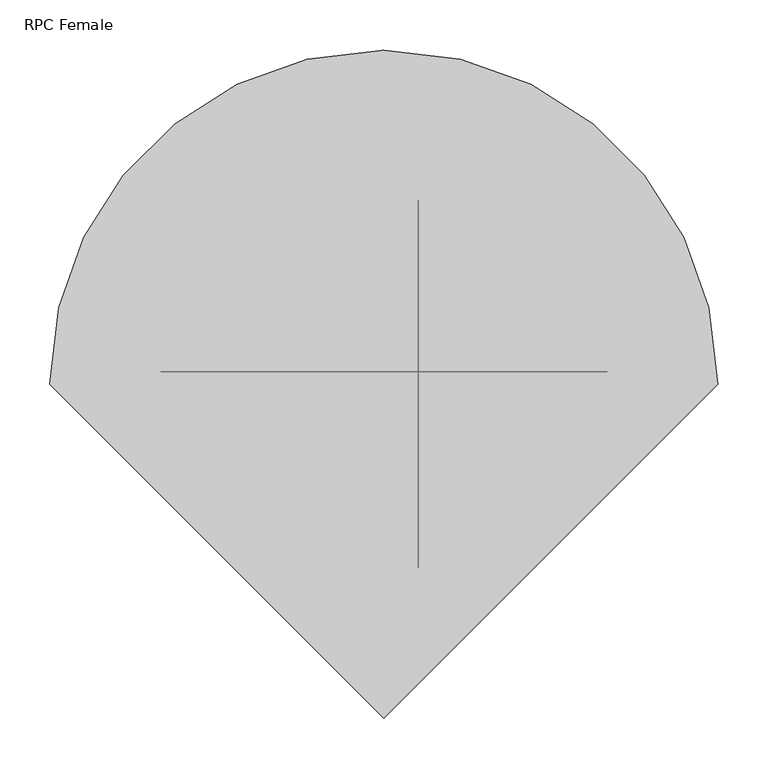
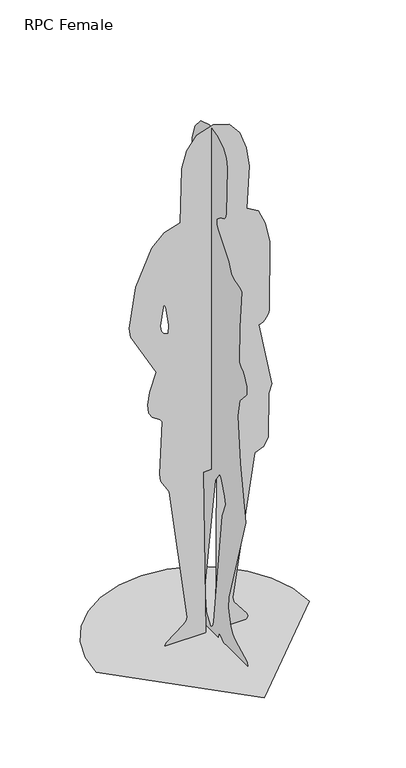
"""IFC4 building model written with IfcOpenShell, lengths in millimetres: proxy geometry, RPC Female : Florence."""

from ifc_helpers import new_model, si_unit, origin, place, context, project, spatial, triangles, source, transform, mapped, element, save


def rpc_female_692637f3(model_context):
    return source(origin(), model_context, "Body", "Tessellation", [
        triangles([(334.1038436, 0.0002006, 4.67e-05), (325.2712069, 76.554684, 4.67e-05), (300.1160563, 146.8577329, 4.67e-05), (260.6525312, 208.8950799, 4.67e-05), (208.8950436, 260.6526402, 4.67e-05), (146.8576239, 300.1161108, 4.67e-05), (76.5545841, 325.2713159, 4.67e-05), (0.0001119, 334.1039526, 4.67e-05), (-76.5543661, 325.2713159, 4.67e-05), (-146.8574241, 300.1161471, 4.67e-05), (-208.8947893, 260.6526402, 4.67e-05), (-260.6523677, 208.8951526, 4.67e-05), (-300.1157837, 146.8577238, 4.67e-05), (-325.2709888, 76.5546749, 4.67e-05), (-334.1036256, 0.0002063, 4.67e-05), (0.0001354, -334.1035166, 4.67e-05), (34.5735982, -6.9369908, 510.5862036), (34.5736005, 50.0894208, 122.5869578), (34.5736005, 40.8608144, 46.3929486), (34.5735982, 17.1569787, 11.3406073), (34.5735982, 7.4077424, 20.0668393), (34.5735982, 1.2816647, 37.4286861), (34.5735982, -2.1837537, 60.406083), (34.573596, -46.4921976, 417.5145226), (34.573596, -63.110333, 464.5403223), (34.573596, -60.1161389, 490.2851171), (34.573596, -39.0453865, 536.4626401), (34.573596, -31.9759211, 546.3433597), (34.5736051, 133.6635619, 4.67e-05), (34.5736051, 131.2497012, 427.6552917), (34.5736028, 105.4428553, 516.402818), (34.5736051, 133.6330768, 904.8776161), (34.5736051, 118.5363239, 971.9484495), (34.5736051, 119.0610557, 980.9675211), (34.5736051, 126.7253499, 988.4865389), (34.5736073, 167.3251791, 1010.3459604), (34.5736073, 178.3172225, 1020.1671633), (34.5736073, 183.8335464, 1032.6394398), (34.5736073, 170.1064229, 1269.4988194), (34.5736073, 153.1875791, 1316.4971134), (34.5736051, 126.3412163, 1357.63312), (34.5736051, 116.7179574, 1573.3395756), (34.5736028, 100.9948892, 1620.5182365), (34.5736028, 71.8814228, 1654.7582977), (34.5736005, 25.3458139, 1670.9407402), (34.573596, -21.8028775, 1659.2649994), (34.573596, -51.3715418, 1640.0022217), (34.5735937, -67.2787558, 1615.437006), (34.5735937, -73.4430507, 1587.8543873), (34.5735937, -67.1164838, 1429.4550442), (34.573596, -62.6125163, 1414.6470818), (34.573596, -56.0058929, 1408.6359661), (34.573596, -33.6371819, 1398.6160835), (34.5735982, -16.4512737, 1382.4130028), (34.5735982, -16.5742143, 1366.5170254), (34.573596, -23.8041702, 1350.9894848), (34.5735937, -80.3271009, 1279.6723263), (34.5735937, -93.6682833, 1248.0555061), (34.5735937, -101.8993307, 1241.9481754), (34.5735914, -113.2375739, 1237.3922035), (34.5735914, -125.7355211, 1233.7834122), (34.5735914, -137.445871, 1230.5184952), (34.5735914, -146.4210681, 1226.9929836), (34.5735914, -150.7137475, 1222.6031353), (34.5735914, -148.5625071, 1190.0747429), (34.5735914, -140.3131288, 1099.0845119), (34.5735914, -138.7464003, 982.8324509), (34.5735914, -146.619339, 972.1617359), (34.5735892, -156.6982296, 965.1524254), (34.5735892, -165.5360078, 953.6295095), (34.5735892, -177.5233393, 924.4368147), (34.5735892, -179.6904672, 910.463249), (34.5735892, -178.6515408, 899.3693041), (34.5735892, -173.9153837, 893.0032682), (34.5735914, -141.1932077, 856.8173229), (34.5735914, -128.9730324, 798.8474602), (34.5735914, -142.8069082, 650.4621861), (34.5735892, -172.1239596, 470.1701385), (34.5735937, -80.165383, 167.8524907), (34.5735937, -77.6113328, 131.7844796), (34.5735937, -91.6647991, 75.8743931), (34.5735937, -102.4531668, 58.8461219), (34.5735914, -116.401843, 46.2735109), (34.5735892, -182.1041825, 14.070202), (34.5735892, -183.8332739, 4.67e-05), (34.573596, -53.8341595, 4.67e-05), (34.573596, -35.7947333, 12.7326758), (34.573596, -29.2463276, 15.4350465), (34.573596, -27.5084158, 14.8404334), (34.573596, -26.3930815, 13.6010264), (34.573596, -23.0174154, 4.67e-05), (-109.094313, 12.6252593, 1123.2807821), (-99.0692164, 12.6252548, 1062.4456146), (-101.4218071, 12.6252536, 1032.213085), (-115.6875607, 12.6252536, 1036.9381599), (-123.3610839, 12.6252559, 1049.3745375), (-125.9345188, 12.6252559, 1066.9140919), (-115.0698113, 12.6252593, 1135.9380037), (142.5673516, 12.6251787, 0.0), (147.4016405, 12.6251787, 9.7557227), (144.3531438, 12.6251798, 20.3925416), (104.8323548, 12.6251855, 72.3575519), (100.9956885, 12.6251855, 87.8546938), (169.3636811, 12.6252093, 543.0591125), (197.666532, 12.6252093, 555.605367), (211.7994085, 12.6252093, 579.9655443), (214.3379708, 12.6252173, 724.0128565), (223.4012803, 12.6252196, 753.7932335), (181.7748058, 12.6252343, 962.6080313), (189.3709628, 12.6252332, 963.9546787), (195.9600047, 12.6252332, 967.6156471), (201.5896029, 12.6252343, 973.0224392), (206.3074654, 12.6252343, 979.6063396), (210.1614997, 12.6252332, 986.7992872), (213.1992504, 12.6252332, 994.0323486), (215.4685159, 12.6252343, 1000.7370993), (216.7847147, 12.6252479, 1226.3016014), (203.5876096, 12.6252536, 1292.6408661), (180.5930284, 12.625257, 1341.5987789), (145.6075276, 12.6252582, 1362.4953232), (152.3856295, 12.6252672, 1500.6374725), (142.6607235, 12.6252718, 1563.7968441), (122.5370971, 12.6252763, 1620.2490669), (89.370735, 12.625282, 1660.8358337), (40.5176895, 12.6252843, 1676.4), (-11.7228571, 12.6252854, 1659.2202347), (-43.4643846, 12.6252854, 1619.483416), (-59.5217757, 12.6252831, 1565.8930824), (-63.2073292, 12.6252718, 1387.0617016), (-114.1079968, 12.6252741, 1371.9761398), (-153.4323498, 12.6252729, 1333.9056438), (-202.7226188, 12.6252695, 1222.3996593), (-223.4010259, 12.6252627, 1092.6907888), (-219.1643114, 12.6252604, 1062.1448336), (-139.8068642, 12.6252468, 917.9959288), (-160.1374456, 12.6252457, 858.7674219), (-166.230642, 12.6252434, 817.4798985), (-162.0168367, 12.6252411, 790.3472523), (-151.4263857, 12.6252389, 773.5839586), (-126.837407, 12.6252377, 756.0219492), (-120.6996275, 12.6252366, 747.6516026), (-128.6616143, 12.6252264, 575.4503403), (-125.4420706, 12.6252252, 551.8412436), (-98.6846832, 12.6252218, 508.0167383), (-41.8822682, 12.6251934, 71.4770234), (-45.3585504, 12.6251912, 61.0228059), (-53.9451629, 12.6251912, 51.2209333), (-105.6091242, 12.6251923, 11.6815362), (-114.4080966, 12.6251923, 0.0), (16.5202489, 12.6251855, 0.0), (7.7624049, 12.6252184, 535.4248037), (51.4361137, 12.6252162, 536.7896187), (47.7042875, 12.6251844, 0.0)], [[15, 16, 1], [14, 15, 1], [14, 1, 2], [13, 14, 2], [13, 2, 3], [13, 3, 4], [12, 13, 4], [11, 12, 4], [11, 4, 5], [11, 5, 6], [11, 6, 7], [11, 7, 8], [11, 8, 9], [11, 9, 10], [91, 29, 20], [91, 20, 21], [19, 20, 29], [84, 85, 86], [83, 84, 86], [82, 83, 86], [91, 21, 22], [90, 91, 22], [18, 19, 29], [18, 29, 30], [18, 30, 31], [17, 18, 31], [89, 90, 22], [28, 17, 31], [81, 82, 86], [81, 86, 87], [81, 87, 88], [89, 22, 23], [88, 89, 23], [81, 88, 23], [80, 81, 23], [79, 80, 23], [79, 23, 24], [79, 24, 25], [78, 79, 25], [78, 25, 26], [78, 26, 27], [77, 78, 27], [77, 27, 28], [77, 28, 31], [76, 77, 31], [76, 31, 32], [75, 76, 32], [75, 32, 33], [74, 75, 33], [74, 33, 34], [73, 74, 34], [72, 73, 34], [71, 72, 34], [70, 71, 34], [69, 70, 34], [68, 69, 34], [67, 68, 34], [66, 67, 34], [66, 34, 35], [65, 66, 35], [65, 35, 36], [65, 36, 37], [65, 37, 38], [65, 38, 39], [64, 65, 39], [63, 64, 39], [62, 63, 39], [61, 62, 39], [60, 61, 39], [59, 60, 39], [58, 59, 39], [57, 58, 39], [57, 39, 40], [57, 40, 41], [56, 57, 41], [55, 56, 41], [54, 55, 41], [53, 54, 41], [53, 41, 42], [52, 53, 42], [51, 52, 42], [50, 51, 42], [50, 42, 43], [50, 43, 44], [50, 44, 45], [50, 45, 46], [49, 50, 46], [49, 46, 47], [49, 47, 48], [148, 149, 150], [147, 148, 150], [146, 147, 150], [145, 146, 150], [145, 150, 151], [144, 145, 151], [94, 104, 105], [94, 105, 106], [94, 106, 107], [94, 107, 108], [94, 108, 109], [93, 94, 109], [153, 99, 100], [153, 100, 101], [153, 101, 102], [143, 144, 151], [142, 143, 151], [153, 102, 103], [152, 153, 103], [152, 103, 104], [152, 104, 94], [151, 152, 94], [151, 94, 95], [92, 93, 109], [92, 109, 110], [92, 110, 111], [92, 111, 112], [92, 112, 113], [92, 113, 114], [92, 114, 115], [92, 115, 116], [92, 116, 117], [92, 117, 118], [98, 92, 118], [98, 118, 119], [98, 119, 120], [98, 120, 121], [98, 121, 122], [98, 122, 123], [98, 123, 124], [98, 124, 125], [141, 142, 151], [141, 151, 95], [140, 141, 95], [139, 140, 95], [138, 139, 95], [125, 126, 127], [125, 127, 128], [129, 130, 131], [129, 131, 132], [129, 132, 133], [129, 133, 134], [136, 137, 138], [135, 136, 138], [135, 138, 95], [134, 135, 95], [134, 95, 96], [134, 96, 97], [125, 128, 129], [98, 125, 129], [98, 129, 134], [98, 134, 97]], closed=False),
    ])


if __name__ == "__main__":
    model = new_model("IFC4")
    model_context = context("Model", 3, world=origin())
    ifc_project = project(units=[si_unit("LENGTHUNIT", "METRE", prefix="MILLI")], contexts=[model_context])
    site = spatial("IfcSite", under=ifc_project)
    building = spatial("IfcBuilding", under=site)
    placement = place(None, origin())
    rpc_female_shape = rpc_female_692637f3(model_context)
    element("IfcBuildingElementProxy", 1, Name="RPC Female : Florence", ObjectType="RPC Female : Florence", at=placement, inside=building, context=model_context, shape_type="MappedRepresentation", body=[
        mapped(rpc_female_shape, transform((0.0, 0.0, 0.0), x_axis=(1.0, 0.0, 0.0), y_axis=(0.0, 1.0, 0.0), z_axis=(0.0, 0.0, 1.0))),
    ])
    save(model, "model.ifc")
